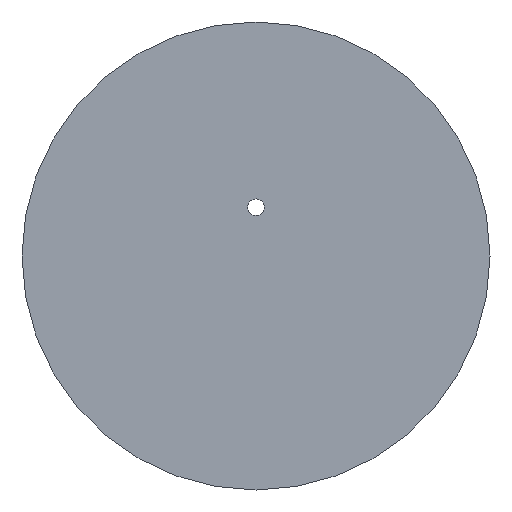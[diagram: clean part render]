
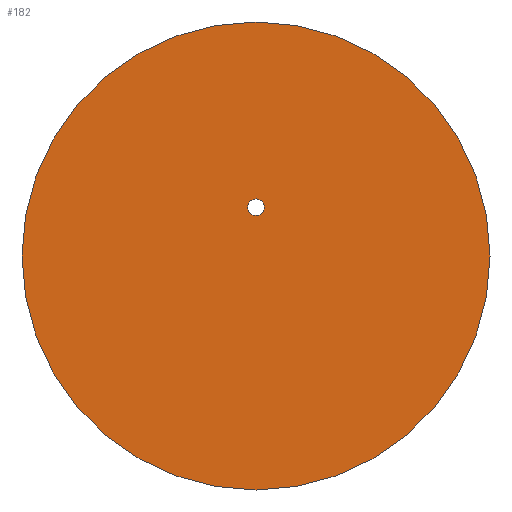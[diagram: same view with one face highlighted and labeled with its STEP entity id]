
A CAD part, left-side view. The second image highlights one B-rep face of the part: STEP entity #182.
In plain terms, the highlighted planar face has unit normal (-1, 0, 0).
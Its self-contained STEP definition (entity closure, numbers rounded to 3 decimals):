
#123=CARTESIAN_POINT('',(-2.2,0.,24.));
#124=VERTEX_POINT('',#123);
#131=CARTESIAN_POINT('',(-2.2,0.,0.));
#132=DIRECTION('',(-0.,0.,1.));
#133=DIRECTION('',(1.,0.,0.));
#134=AXIS2_PLACEMENT_3D('',#131,#133,#132);
#135=CIRCLE('',#134,24.);
#136=EDGE_CURVE('',#124,#124,#135,.T.);
#163=CARTESIAN_POINT('',(-2.2,0.,0.));
#164=DIRECTION('',(0.,0.,1.));
#165=DIRECTION('',(-1.,0.,0.));
#166=AXIS2_PLACEMENT_3D('',#163,#165,#164);
#167=PLANE('',#166);
#168=ORIENTED_EDGE('',*,*,#136,.F.);
#169=EDGE_LOOP('',(#168));
#170=FACE_OUTER_BOUND('',#169,.T.);
#171=CARTESIAN_POINT('',(-2.2,0.,5.85));
#172=VERTEX_POINT('',#171);
#173=CARTESIAN_POINT('',(-2.2,0.,5.));
#174=DIRECTION('',(-0.,-0.,1.));
#175=DIRECTION('',(1.,0.,0.));
#176=AXIS2_PLACEMENT_3D('',#173,#175,#174);
#177=CIRCLE('',#176,0.85);
#178=EDGE_CURVE('',#172,#172,#177,.T.);
#179=ORIENTED_EDGE('E11',*,*,#178,.T.);
#180=EDGE_LOOP('',(#179));
#181=FACE_BOUND('',#180,.T.);
#182=ADVANCED_FACE('F13',(#170,#181),#167,.T.);
